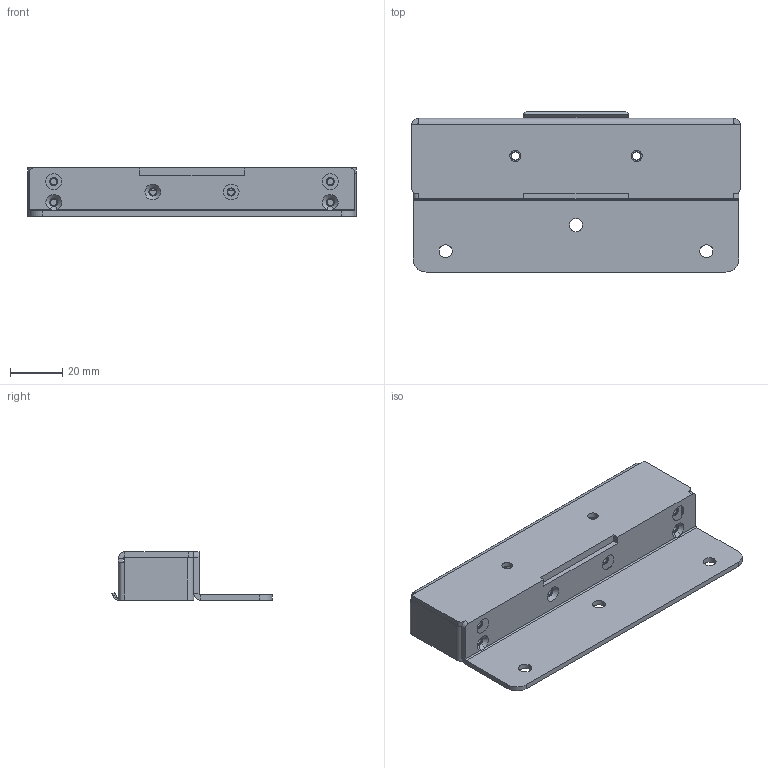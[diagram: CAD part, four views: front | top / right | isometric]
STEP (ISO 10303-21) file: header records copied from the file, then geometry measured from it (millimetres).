
FILE_DESCRIPTION(/* description */ (''),/* implementation_level */ '2;1');
FILE_NAME(/* name */ 'D:\Baturin\Замки\sm215\модель для сайта\Promix-SM215 Ответка.stp',/* time_stamp */ '2023-05-31T13:31:14+03:00',/* author */ ('ASUS'),/* organization */ (''),/* preprocessor_version */ 'ST-DEVELOPER v18',/* originating_system */ 'Autodesk Inventor 2020',/* authorisation */ '');
FILE_SCHEMA (('AUTOMOTIVE_DESIGN { 1 0 10303 214 3 1 1 }'));
Length unit declared in the file: millimetre
Products named in the file (1): Promix-SM215 Ответка
Bounding box: 126 x 61.4 x 18.5 mm (x, y, z)
Volume: 42176.7 mm3; surface area: 39126 mm2
Topology: 1 solids, 9 shells, 338 faces, 918 edges, 590 vertices
Faces by surface type: plane 223, cylinder 105, cone 8, bspline 2
Full cylindrical faces by diameter (mm): 2.1 x8, 2.459 x6, 3.1 x6, 3.2 x2, 4.2 x2, 5 x7
Entity records: 10928 total; most frequent: CARTESIAN_POINT 1913, DIRECTION 1866, ORIENTED_EDGE 1836, EDGE_CURVE 918, LINE 636, VECTOR 636, AXIS2_PLACEMENT_3D 615, VERTEX_POINT 590
